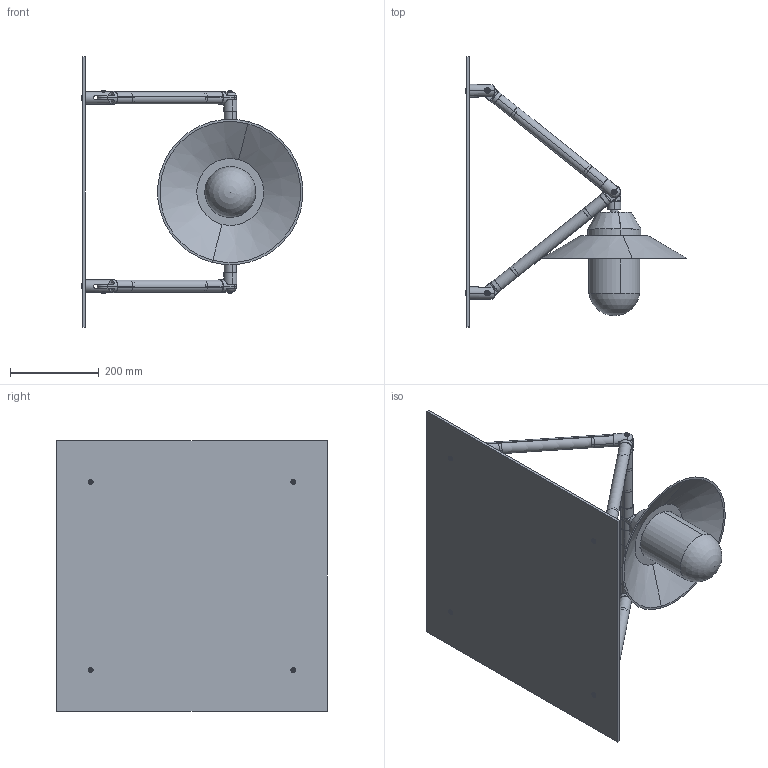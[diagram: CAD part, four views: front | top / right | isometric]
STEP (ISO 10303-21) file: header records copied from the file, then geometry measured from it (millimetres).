
FILE_DESCRIPTION (( 'STEP AP214' ), '1' );
FILE_NAME ('The Boom Assembly.STEP', '2014-01-17T20:52:12', ( 'ydmin' ), ( 'Microsoft' ), 'SwSTEP 2.0', 'SolidWorks 2013', '' );
FILE_SCHEMA (( 'AUTOMOTIVE_DESIGN' ));
Length unit declared in the file: inch
Products named in the file (12): DRP-002-0522-00; DRP-002-0513-00; DRP-002-0509-00; DRP-002-0523-00; Wall Plate; The Boom Assembly; lampadina - mdg; 5; 91255A540_91255A540; DRP-002-0511-00; 12.000 Inch Tube; 6.000 Inch Tube
Assembly tree (36 placements, depth 2):
  The Boom Assembly
    Wall Plate
    DRP-002-0523-00  x4
    DRP-002-0509-00  x6
    DRP-002-0513-00  x4
    DRP-002-0522-00
    6.000 Inch Tube  x2
    12.000 Inch Tube  x4
    DRP-002-0511-00  x2
    91255A540_91255A540  x10
    5
    lampadina - mdg
Bounding box: 500.34 x 609.6 x 609.6 mm (x, y, z)
Volume: 4984602.8 mm3; surface area: 1543310.8 mm2
Topology: 45 solids, 48 shells, 2182 faces, 4677 edges, 2607 vertices
Faces by surface type: cylinder 880, cone 814, plane 295, bspline 130, sphere 35, torus 28
Entity records: 25852 total; most frequent: CARTESIAN_POINT 12339, DIRECTION 2169, ORIENTED_EDGE 2010, EDGE_CURVE 1008, AXIS2_PLACEMENT_3D 895, VERTEX_POINT 593, EDGE_LOOP 500, CIRCLE 478
